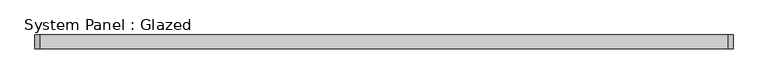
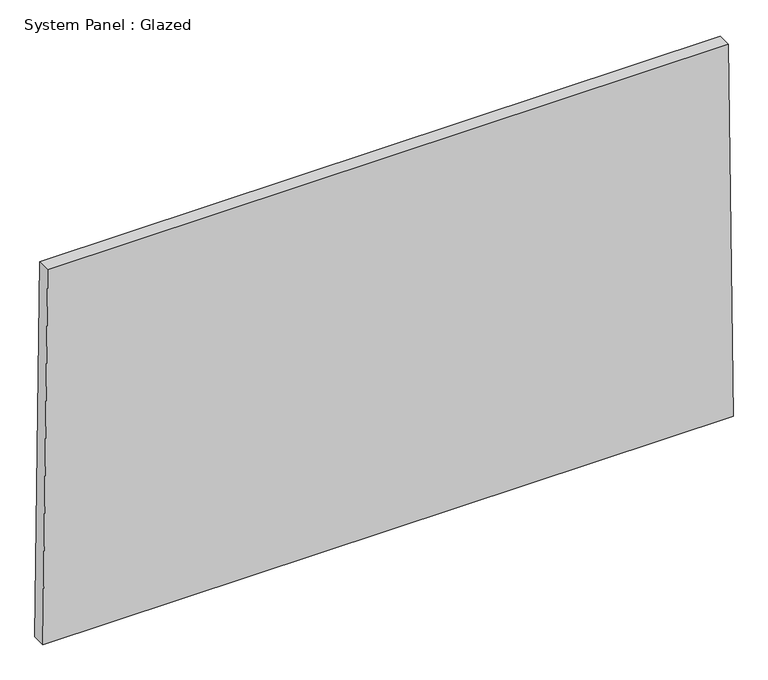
"""IFC4 building model written with IfcOpenShell, lengths in millimetres: plate geometry, System Panel : Glazed."""

from ifc_helpers import new_model, si_unit, frame, origin, place, context, project, spatial, polyline, outline, extrude, source, transform, mapped, element, save


def system_panel_glazed_b60c8f88(model_context):
    return source(origin(), model_context, "Body", "SweptSolid", [
        extrude(outline(polyline([(0.0, -632.8935797), (0.0, 632.8935797), (723.8461495, 624.2875761), (723.8461495, -624.2875761), (0.0, -632.8935797)])), frame((0.0, -44.45, 0.0), z_axis=(0.0, 1.0, 0.0), x_axis=(0.0, 0.0, 1.0)), (0.0, 0.0, 1.0), 25.4),
    ])


if __name__ == "__main__":
    model = new_model("IFC4")
    model_context = context("Model", 3, world=origin())
    ifc_project = project(units=[si_unit("LENGTHUNIT", "METRE", prefix="MILLI")], contexts=[model_context])
    site = spatial("IfcSite", under=ifc_project)
    building = spatial("IfcBuilding", under=site)
    placement = place(None, origin())
    system_panel_glazed_shape = system_panel_glazed_b60c8f88(model_context)
    element("IfcPlate", 1, ObjectType="System Panel : Glazed", at=placement, inside=building, context=model_context, shape_type="MappedRepresentation", body=[
        mapped(system_panel_glazed_shape, transform((0.0, 0.0, 0.0), x_axis=(1.0, 0.0, 0.0), y_axis=(0.0, 1.0, 0.0), z_axis=(0.0, 0.0, 1.0))),
    ])
    save(model, "model.ifc")
